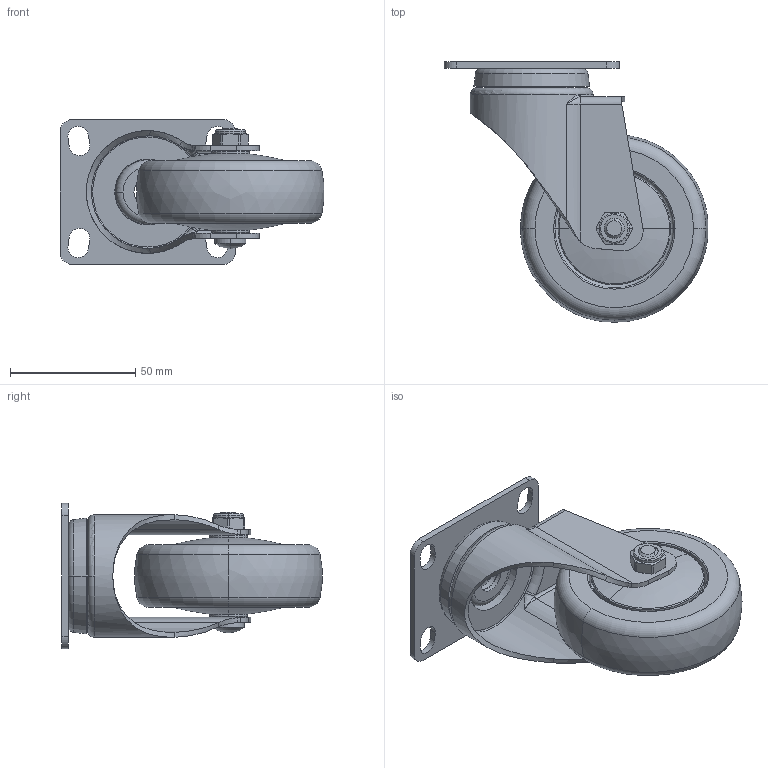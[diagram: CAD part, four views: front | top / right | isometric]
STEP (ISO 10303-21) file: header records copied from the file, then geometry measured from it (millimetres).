
FILE_DESCRIPTION((''),'2;1');
FILE_NAME('37113_ASM','2026-07-09T',('Lenovo'),(''),'PRO/ENGINEER BY PARAMETRIC TECHNOLOGY CORPORATION, 2010280','PRO/ENGINEER BY PARAMETRIC TECHNOLOGY CORPORATION, 2010280','');
FILE_SCHEMA(('CONFIG_CONTROL_DESIGN'));
Length unit declared in the file: millimetre
Products named in the file (9): 3713-311; 360-01; 360-03; 373-907; 373-69; 373-77_ASM; 350-33A; 300-34; 37113_ASM
Assembly tree (9 placements, depth 3):
  37113_ASM
    3713-311
    360-01
    360-03
    373-77_ASM
      373-907
      373-69  x2
    350-33A
    300-34
Bounding box: 105.38 x 103.9 x 58 mm (x, y, z)
Volume: 122124.2 mm3; surface area: 58685.1 mm2
Topology: 8 solids, 8 shells, 298 faces, 658 edges, 393 vertices
Faces by surface type: cylinder 91, torus 78, plane 70, cone 32, bspline 25, sphere 2
Entity records: 8733 total; most frequent: CARTESIAN_POINT 2441, DIRECTION 1424, ORIENTED_EDGE 1192, AXIS2_PLACEMENT_3D 620, EDGE_CURVE 596, VERTEX_POINT 359, CIRCLE 352, EDGE_LOOP 309
